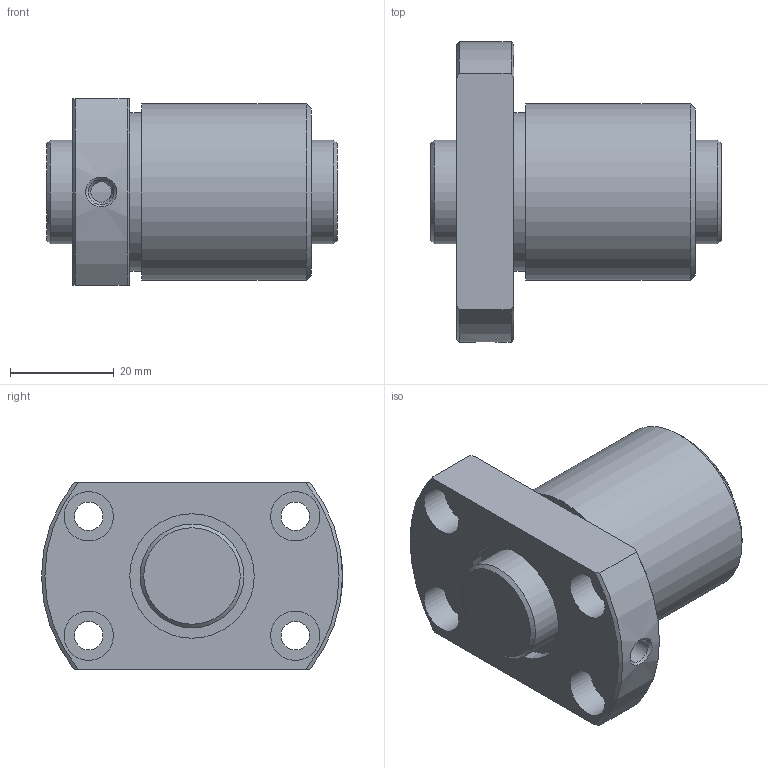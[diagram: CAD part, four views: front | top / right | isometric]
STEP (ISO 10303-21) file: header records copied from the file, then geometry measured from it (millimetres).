
FILE_DESCRIPTION(/* description */ ('STEP AP203'),/* implementation_level */ '2;1');
FILE_NAME(/* name */ 'DK2005-3RRG1+56LC0_000',/* time_stamp */ '2025-01-13T09:08:35+01:00',/* author */ ('License CC BY-ND 4.0'),/* organization */ ('CADENAS'),/* preprocessor_version */ 'ST-DEVELOPER v19.3',/* originating_system */ 'PARTsolutions',/* authorisation */ ' ');
FILE_SCHEMA (('CONFIG_CONTROL_DESIGN'));
Length unit declared in the file: millimetre
Products named in the file (3): DK2005-3RRG1+56LC0_000; DK 2005-3RR05600 Shaft; DK 2005-3RR0Nut
Assembly tree (2 placements, depth 2):
  DK2005-3RRG1+56LC0_000
    DK 2005-3RR05600 Shaft
    DK 2005-3RR0Nut
Bounding box: 56 x 58 x 36 mm (x, y, z)
Volume: 52726.5 mm3; surface area: 17177.8 mm2
Topology: 2 solids, 2 shells, 41 faces, 83 edges, 54 vertices
Faces by surface type: cylinder 18, plane 14, cone 9
Full cylindrical faces by diameter (mm): 4 x1, 4.917 x1, 5.5 x4, 9.5 x4, 20 x2, 24 x2, 30.6 x1, 34 x1
Entity records: 1087 total; most frequent: CARTESIAN_POINT 200, DIRECTION 180, ORIENTED_EDGE 120, AXIS2_PLACEMENT_3D 86, EDGE_LOOP 82, FACE_BOUND 82, EDGE_CURVE 60, VERTEX_POINT 52
